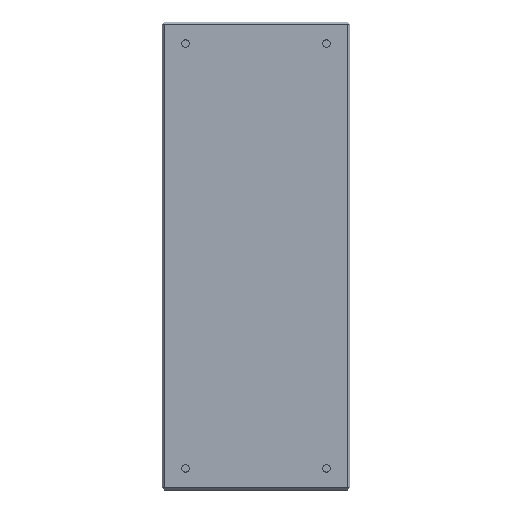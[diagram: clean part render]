
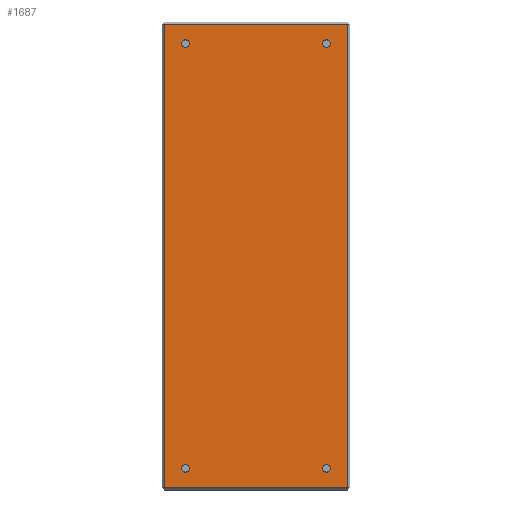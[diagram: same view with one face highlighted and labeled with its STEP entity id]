
A CAD part, front view. The second image highlights one B-rep face of the part: STEP entity #1687.
In plain terms, the highlighted planar face has unit normal (0, -1, 0).
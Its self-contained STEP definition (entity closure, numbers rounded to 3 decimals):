
#62=FACE_BOUND('',#323,.T.);
#63=FACE_BOUND('',#324,.T.);
#64=FACE_BOUND('',#325,.T.);
#65=FACE_BOUND('',#326,.T.);
#95=CIRCLE('',#1822,1.621);
#96=CIRCLE('',#1823,1.621);
#97=CIRCLE('',#1824,1.621);
#98=CIRCLE('',#1825,1.621);
#99=CIRCLE('',#1826,1.621);
#100=CIRCLE('',#1827,1.621);
#101=CIRCLE('',#1828,1.621);
#102=CIRCLE('',#1829,1.621);
#218=FACE_OUTER_BOUND('',#322,.T.);
#322=EDGE_LOOP('',(#1183,#1184,#1185,#1186));
#323=EDGE_LOOP('',(#1187,#1188));
#324=EDGE_LOOP('',(#1189,#1190));
#325=EDGE_LOOP('',(#1191,#1192));
#326=EDGE_LOOP('',(#1193,#1194));
#429=LINE('',#2600,#554);
#437=LINE('',#2617,#562);
#439=LINE('',#2620,#564);
#444=LINE('',#2629,#569);
#554=VECTOR('',#2027,10.);
#562=VECTOR('',#2041,10.);
#564=VECTOR('',#2045,10.);
#569=VECTOR('',#2054,10.);
#672=VERTEX_POINT('',#2585);
#677=VERTEX_POINT('',#2595);
#680=VERTEX_POINT('',#2605);
#683=VERTEX_POINT('',#2612);
#713=VERTEX_POINT('',#2697);
#714=VERTEX_POINT('',#2698);
#715=VERTEX_POINT('',#2701);
#716=VERTEX_POINT('',#2702);
#717=VERTEX_POINT('',#2705);
#718=VERTEX_POINT('',#2706);
#719=VERTEX_POINT('',#2709);
#720=VERTEX_POINT('',#2710);
#859=EDGE_CURVE('',#672,#677,#429,.T.);
#867=EDGE_CURVE('',#677,#683,#437,.T.);
#869=EDGE_CURVE('',#683,#680,#439,.T.);
#874=EDGE_CURVE('',#680,#672,#444,.T.);
#908=EDGE_CURVE('',#713,#714,#95,.T.);
#909=EDGE_CURVE('',#714,#713,#96,.T.);
#910=EDGE_CURVE('',#715,#716,#97,.T.);
#911=EDGE_CURVE('',#716,#715,#98,.T.);
#912=EDGE_CURVE('',#717,#718,#99,.T.);
#913=EDGE_CURVE('',#718,#717,#100,.T.);
#914=EDGE_CURVE('',#719,#720,#101,.T.);
#915=EDGE_CURVE('',#720,#719,#102,.T.);
#1183=ORIENTED_EDGE('',*,*,#859,.F.);
#1184=ORIENTED_EDGE('',*,*,#874,.F.);
#1185=ORIENTED_EDGE('',*,*,#869,.F.);
#1186=ORIENTED_EDGE('',*,*,#867,.F.);
#1187=ORIENTED_EDGE('',*,*,#908,.T.);
#1188=ORIENTED_EDGE('',*,*,#909,.T.);
#1189=ORIENTED_EDGE('',*,*,#910,.T.);
#1190=ORIENTED_EDGE('',*,*,#911,.T.);
#1191=ORIENTED_EDGE('',*,*,#912,.T.);
#1192=ORIENTED_EDGE('',*,*,#913,.T.);
#1193=ORIENTED_EDGE('',*,*,#914,.T.);
#1194=ORIENTED_EDGE('',*,*,#915,.T.);
#1626=PLANE('',#1821);
#1687=ADVANCED_FACE('',(#218,#62,#63,#64,#65),#1626,.F.);
#1821=AXIS2_PLACEMENT_3D('',#2696,#2116,#2117);
#1822=AXIS2_PLACEMENT_3D('',#2699,#2118,#2119);
#1823=AXIS2_PLACEMENT_3D('',#2700,#2120,#2121);
#1824=AXIS2_PLACEMENT_3D('',#2703,#2122,#2123);
#1825=AXIS2_PLACEMENT_3D('',#2704,#2124,#2125);
#1826=AXIS2_PLACEMENT_3D('',#2707,#2126,#2127);
#1827=AXIS2_PLACEMENT_3D('',#2708,#2128,#2129);
#1828=AXIS2_PLACEMENT_3D('',#2711,#2130,#2131);
#1829=AXIS2_PLACEMENT_3D('',#2712,#2132,#2133);
#2027=DIRECTION('',(0.,0.,1.));
#2041=DIRECTION('',(1.,0.,0.));
#2045=DIRECTION('',(0.,0.,-1.));
#2054=DIRECTION('',(-1.,0.,0.));
#2116=DIRECTION('center_axis',(0.,1.,0.));
#2117=DIRECTION('ref_axis',(0.,0.,1.));
#2118=DIRECTION('center_axis',(0.,1.,0.));
#2119=DIRECTION('ref_axis',(1.,0.,0.));
#2120=DIRECTION('center_axis',(0.,1.,0.));
#2121=DIRECTION('ref_axis',(1.,0.,0.));
#2122=DIRECTION('center_axis',(0.,1.,0.));
#2123=DIRECTION('ref_axis',(-1.,0.,0.));
#2124=DIRECTION('center_axis',(0.,1.,0.));
#2125=DIRECTION('ref_axis',(-1.,0.,0.));
#2126=DIRECTION('center_axis',(0.,1.,0.));
#2127=DIRECTION('ref_axis',(1.,0.,0.));
#2128=DIRECTION('center_axis',(0.,1.,0.));
#2129=DIRECTION('ref_axis',(1.,0.,0.));
#2130=DIRECTION('center_axis',(0.,1.,0.));
#2131=DIRECTION('ref_axis',(-1.,0.,0.));
#2132=DIRECTION('center_axis',(0.,1.,0.));
#2133=DIRECTION('ref_axis',(-1.,0.,0.));
#2585=CARTESIAN_POINT('',(-39.005,0.,-98.695));
#2595=CARTESIAN_POINT('',(-39.005,0.,98.695));
#2600=CARTESIAN_POINT('',(-39.005,0.,-49.848));
#2605=CARTESIAN_POINT('',(39.005,0.,-98.695));
#2612=CARTESIAN_POINT('',(39.005,0.,98.695));
#2617=CARTESIAN_POINT('',(-20.003,0.,98.695));
#2620=CARTESIAN_POINT('',(39.005,0.,49.848));
#2629=CARTESIAN_POINT('',(20.003,0.,-98.695));
#2696=CARTESIAN_POINT('Origin',(0.,0.,0.));
#2697=CARTESIAN_POINT('',(31.626,0.,90.5));
#2698=CARTESIAN_POINT('',(28.384,0.,90.5));
#2699=CARTESIAN_POINT('Origin',(30.005,0.,90.5));
#2700=CARTESIAN_POINT('Origin',(30.005,0.,90.5));
#2701=CARTESIAN_POINT('',(-31.626,0.,90.5));
#2702=CARTESIAN_POINT('',(-28.384,0.,90.5));
#2703=CARTESIAN_POINT('Origin',(-30.005,0.,90.5));
#2704=CARTESIAN_POINT('Origin',(-30.005,0.,90.5));
#2705=CARTESIAN_POINT('',(31.626,0.,-90.5));
#2706=CARTESIAN_POINT('',(28.384,0.,-90.5));
#2707=CARTESIAN_POINT('Origin',(30.005,0.,-90.5));
#2708=CARTESIAN_POINT('Origin',(30.005,0.,-90.5));
#2709=CARTESIAN_POINT('',(-31.626,0.,-90.5));
#2710=CARTESIAN_POINT('',(-28.384,0.,-90.5));
#2711=CARTESIAN_POINT('Origin',(-30.005,0.,-90.5));
#2712=CARTESIAN_POINT('Origin',(-30.005,0.,-90.5));
